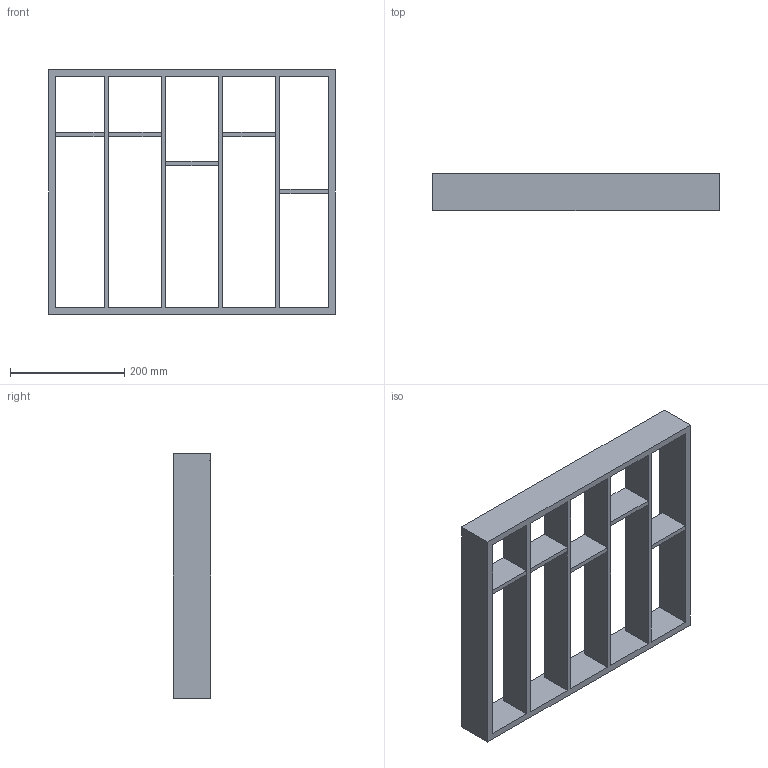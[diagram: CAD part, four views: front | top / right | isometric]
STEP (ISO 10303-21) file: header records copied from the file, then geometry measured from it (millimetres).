
FILE_DESCRIPTION (( 'STEP AP214' ), '1' );
FILE_NAME ('Vario Besteck NL450_B600_19 mm_Alu.step', '2010-11-04T08:33:20', ( 'grass' ), ( '' ), 'SwSTEP 2.0', 'SolidWorks 2010', '' );
FILE_SCHEMA (( 'AUTOMOTIVE_DESIGN' ));
Length unit declared in the file: millimetre
Products named in the file (1): Vario Besteck NL450_B600_19 mm_Alu
Bounding box: 502 x 65 x 429 mm (x, y, z)
Volume: 2357016 mm3; surface area: 548848 mm2
Topology: 6 solids, 6 shells, 52 faces, 132 edges, 88 vertices
Faces by surface type: plane 52
Entity records: 1635 total; most frequent: CARTESIAN_POINT 273, ORIENTED_EDGE 264, DIRECTION 238, VECTOR 132, LINE 132, EDGE_CURVE 132, VERTEX_POINT 88, EDGE_LOOP 58
